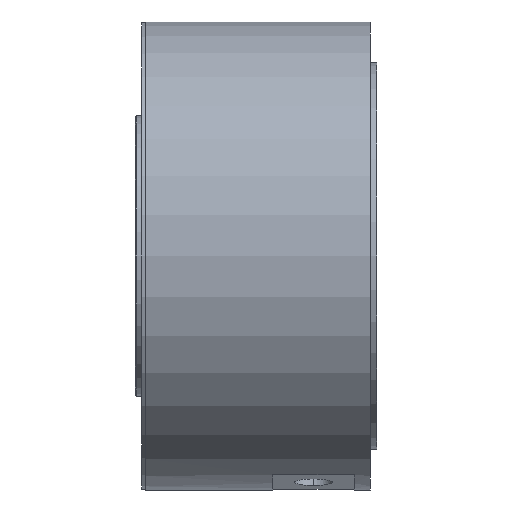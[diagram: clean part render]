
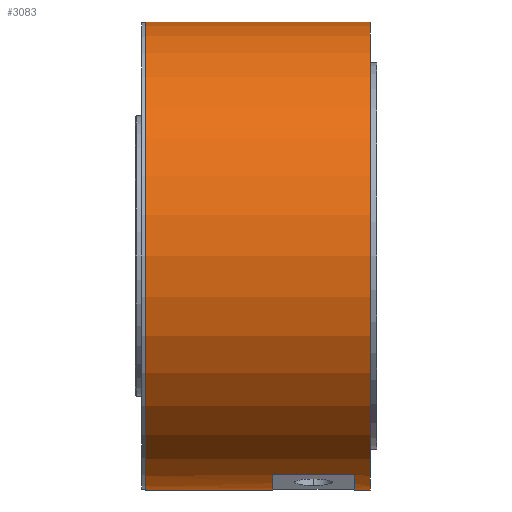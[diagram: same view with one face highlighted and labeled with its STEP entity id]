
A CAD part, left-side view. The second image highlights one B-rep face of the part: STEP entity #3083.
In plain terms, the highlighted cylindrical face has radius 115 mm (diameter 230 mm), a partial arc.
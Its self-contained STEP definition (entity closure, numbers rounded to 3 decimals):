
#302=DIRECTION('',(0.,1.,0.));
#303=VECTOR('',#302,62.5);
#304=CARTESIAN_POINT('',(0.,-8.25,-115.));
#305=LINE('',#304,#303);
#306=CARTESIAN_POINT('',(0.,-48.25,0.));
#307=DIRECTION('',(0.,1.,0.));
#308=DIRECTION('',(0.,0.,-1.));
#309=AXIS2_PLACEMENT_3D('',#306,#307,#308);
#389=CARTESIAN_POINT('',(0.,-8.25,0.));
#390=DIRECTION('',(0.,-1.,0.));
#391=DIRECTION('',(-0.353,0.,-0.935));
#392=AXIS2_PLACEMENT_3D('',#389,#390,#391);
#394=DIRECTION('',(0.,-1.,0.));
#395=VECTOR('',#394,110.5);
#396=CARTESIAN_POINT('',(0.,54.25,115.));
#397=LINE('',#396,#395);
#398=DIRECTION('',(0.,-1.,0.));
#399=VECTOR('',#398,8.);
#400=CARTESIAN_POINT('',(0.,-48.25,-115.));
#401=LINE('',#400,#399);
#402=DIRECTION('',(0.,-1.,0.));
#403=VECTOR('',#402,40.);
#404=CARTESIAN_POINT('',(-40.652,-8.25,-107.575));
#405=LINE('',#404,#403);
#406=CARTESIAN_POINT('',(0.,-56.25,0.));
#407=DIRECTION('',(0.,-1.,0.));
#408=DIRECTION('',(0.,0.,1.));
#409=AXIS2_PLACEMENT_3D('',#406,#407,#408);
#1683=CARTESIAN_POINT('',(0.,54.25,0.));
#1684=DIRECTION('',(0.,1.,0.));
#1685=DIRECTION('',(0.,0.,-1.));
#1686=AXIS2_PLACEMENT_3D('',#1683,#1684,#1685);
#2618=CARTESIAN_POINT('',(0.,54.25,115.));
#2619=CARTESIAN_POINT('',(0.,54.25,-115.));
#2620=VERTEX_POINT('',#2618);
#2621=VERTEX_POINT('',#2619);
#2622=CARTESIAN_POINT('',(0.,-8.25,-115.));
#2624=VERTEX_POINT('',#2622);
#2626=CARTESIAN_POINT('',(-40.652,-8.25,-107.575));
#2627=VERTEX_POINT('',#2626);
#2698=CARTESIAN_POINT('',(0.,-56.25,115.));
#2699=CARTESIAN_POINT('',(0.,-56.25,-115.));
#2700=VERTEX_POINT('',#2698);
#2701=VERTEX_POINT('',#2699);
#2766=CARTESIAN_POINT('',(0.,-48.25,-115.));
#2767=VERTEX_POINT('',#2766);
#2880=CARTESIAN_POINT('',(-40.652,-48.25,-107.575));
#2882=VERTEX_POINT('',#2880);
#3066=CARTESIAN_POINT('',(0.,384.519,0.));
#3067=DIRECTION('',(0.,-1.,0.));
#3068=DIRECTION('',(0.,0.,-1.));
#3069=AXIS2_PLACEMENT_3D('',#3066,#3067,#3068);
#3070=CYLINDRICAL_SURFACE('',#3069,115.);
#3071=ORIENTED_EDGE('',*,*,#2970,.T.);
#3073=ORIENTED_EDGE('',*,*,#3072,.T.);
#3074=ORIENTED_EDGE('',*,*,#2966,.F.);
#3075=ORIENTED_EDGE('',*,*,#2988,.T.);
#3076=ORIENTED_EDGE('',*,*,#3003,.F.);
#3077=ORIENTED_EDGE('',*,*,#3061,.T.);
#3078=ORIENTED_EDGE('',*,*,#2974,.T.);
#3080=ORIENTED_EDGE('',*,*,#3079,.T.);
#3081=EDGE_LOOP('',(#3071,#3073,#3074,#3075,#3076,#3077,#3078,#3080));
#3082=FACE_OUTER_BOUND('',#3081,.F.);
#3083=ADVANCED_FACE('',(#3082),#3070,.T.);
#310=CIRCLE('',#309,115.);
#393=CIRCLE('',#392,115.);
#410=CIRCLE('',#409,115.);
#1687=CIRCLE('',#1686,115.);
#2966=EDGE_CURVE('',#2767,#2701,#401,.T.);
#2970=EDGE_CURVE('',#2620,#2700,#397,.T.);
#2974=EDGE_CURVE('',#2624,#2621,#305,.T.);
#2988=EDGE_CURVE('',#2767,#2882,#310,.T.);
#3003=EDGE_CURVE('',#2627,#2882,#405,.T.);
#3061=EDGE_CURVE('',#2627,#2624,#393,.T.);
#3072=EDGE_CURVE('',#2700,#2701,#410,.T.);
#3079=EDGE_CURVE('',#2621,#2620,#1687,.T.);
